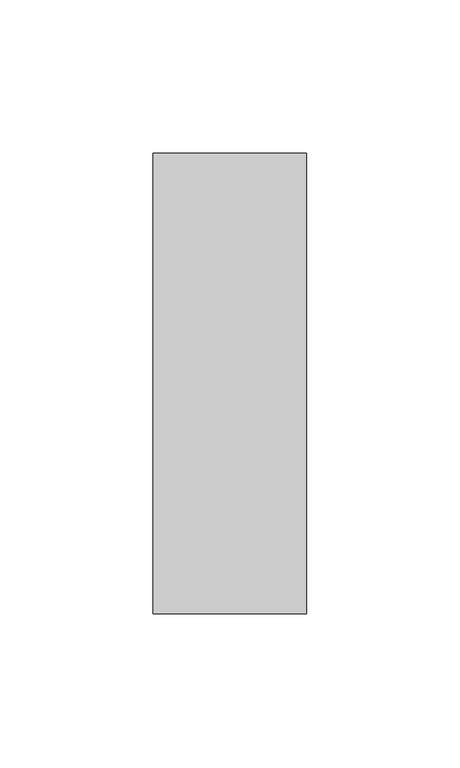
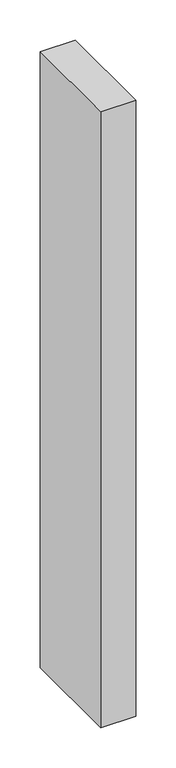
"""IFC4 building model written with IfcOpenShell, lengths in millimetres: member geometry, Прямоугольный импост : 50 x 150 мм."""

from ifc_helpers import new_model, si_unit, frame, origin, place, context, project, spatial, polyline, outline, extrude, source, transform, mapped, element, save


def member_a689f1f4(model_context):
    return source(origin(), model_context, "Body", "SweptSolid", [
        extrude(outline(polyline([(25.0, 75.0), (25.0, -75.0), (-25.0, -75.0), (-25.0, 75.0), (25.0, 75.0)])), frame((0.0, 0.0, -933.8371914), z_axis=(0.0, 0.0, 1.0), x_axis=(1.0, 0.0, 0.0)), (0.0, 0.0, 1.0), 933.8371914),
    ])


if __name__ == "__main__":
    model = new_model("IFC4")
    model_context = context("Model", 3, world=origin())
    ifc_project = project(units=[si_unit("LENGTHUNIT", "METRE", prefix="MILLI")], contexts=[model_context])
    site = spatial("IfcSite", under=ifc_project)
    building = spatial("IfcBuilding", under=site)
    placement = place(None, origin())
    member_shape = member_a689f1f4(model_context)
    element("IfcMember", 1, ObjectType="Прямоугольный импост : 50 x 150 мм", at=placement, inside=building, context=model_context, shape_type="MappedRepresentation", body=[
        mapped(member_shape, transform((0.0, 0.0, 0.0), x_axis=(1.0, 0.0, 0.0), y_axis=(0.0, 1.0, 0.0), z_axis=(0.0, 0.0, 1.0))),
    ])
    save(model, "model.ifc")
